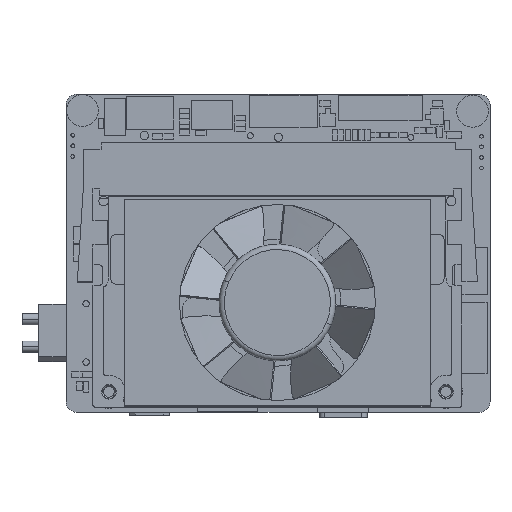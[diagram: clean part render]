
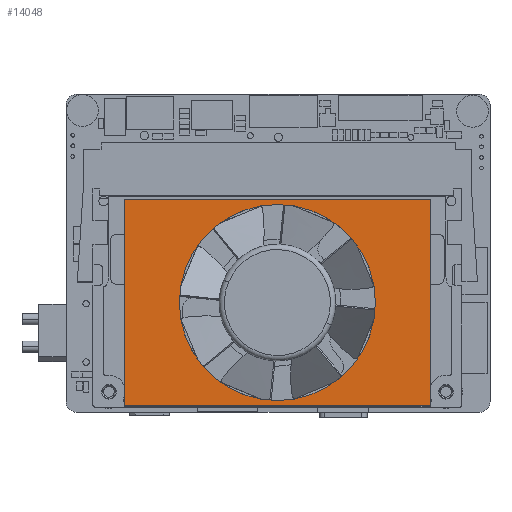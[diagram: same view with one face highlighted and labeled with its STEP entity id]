
A CAD part, top view. The second image highlights one B-rep face of the part: STEP entity #14048.
In plain terms, the highlighted planar face has unit normal (0, 0, 1) as drawn and (0, 0, -1) by its records, which use the part's own axes.
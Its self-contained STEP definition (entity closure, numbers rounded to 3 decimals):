
#58 = CARTESIAN_POINT ( 'NONE',  ( 0., 0., 0. ) ) ;
#1183 = DIRECTION ( 'NONE',  ( 0., 1., 0. ) ) ;
#2988 = VERTEX_POINT ( 'NONE', #7020 ) ;
#3013 = CARTESIAN_POINT ( 'NONE',  ( -28.9, 19.5, 0. ) ) ;
#3814 = EDGE_CURVE ( 'NONE', #34441, #29751, #6232, .T. ) ;
#4059 = CIRCLE ( 'NONE', #27681, 18.5 ) ;
#4518 = PLANE ( 'NONE',  #33519 ) ;
#6232 = LINE ( 'NONE', #3013, #19809 ) ;
#7020 = CARTESIAN_POINT ( 'NONE',  ( -28.9, -19.5, 0. ) ) ;
#7022 = EDGE_LOOP ( 'NONE', ( #45940, #36222, #11529, #42035 ) ) ;
#8548 = EDGE_CURVE ( 'NONE', #39431, #34441, #31453, .T. ) ;
#8972 = DIRECTION ( 'NONE',  ( 0., 0., -1. ) ) ;
#9295 = EDGE_CURVE ( 'NONE', #47101, #12261, #4059, .T. ) ;
#10654 = DIRECTION ( 'NONE',  ( 0., -1., 0. ) ) ;
#11529 = ORIENTED_EDGE ( 'NONE', *, *, #35058, .F. ) ;
#12180 = CARTESIAN_POINT ( 'NONE',  ( 0., 0., 0. ) ) ;
#12261 = VERTEX_POINT ( 'NONE', #32542 ) ;
#12617 = FACE_OUTER_BOUND ( 'NONE', #7022, .T. ) ;
#13900 = DIRECTION ( 'NONE',  ( 0., 0., -1. ) ) ;
#14048 = ADVANCED_FACE ( 'NONE', ( #12617, #38997 ), #4518, .T. ) ;
#16975 = CARTESIAN_POINT ( 'NONE',  ( 28.9, 19.5, 0. ) ) ;
#19809 = VECTOR ( 'NONE', #39501, 1000. ) ;
#20083 = CARTESIAN_POINT ( 'NONE',  ( 28.9, -19.5, 0. ) ) ;
#22182 = EDGE_CURVE ( 'NONE', #12261, #47101, #39421, .T. ) ;
#22297 = DIRECTION ( 'NONE',  ( -1., 0., 0. ) ) ;
#22911 = AXIS2_PLACEMENT_3D ( 'NONE', #48083, #13900, #25507 ) ;
#24762 = VECTOR ( 'NONE', #10654, 1000. ) ;
#25507 = DIRECTION ( 'NONE',  ( -1., 0., 0. ) ) ;
#27038 = VECTOR ( 'NONE', #42646, 1000. ) ;
#27681 = AXIS2_PLACEMENT_3D ( 'NONE', #58, #30149, #22297 ) ;
#28887 = CARTESIAN_POINT ( 'NONE',  ( -28.9, -19.5, 0. ) ) ;
#29096 = LINE ( 'NONE', #28887, #24762 ) ;
#29751 = VERTEX_POINT ( 'NONE', #36987 ) ;
#30149 = DIRECTION ( 'NONE',  ( 0., 0., -1. ) ) ;
#31453 = LINE ( 'NONE', #46446, #36373 ) ;
#32542 = CARTESIAN_POINT ( 'NONE',  ( 18.5, 0., 0. ) ) ;
#32915 = EDGE_CURVE ( 'NONE', #2988, #39431, #39211, .T. ) ;
#33519 = AXIS2_PLACEMENT_3D ( 'NONE', #12180, #8972, #46350 ) ;
#34441 = VERTEX_POINT ( 'NONE', #16975 ) ;
#35058 = EDGE_CURVE ( 'NONE', #29751, #2988, #29096, .T. ) ;
#35776 = ORIENTED_EDGE ( 'NONE', *, *, #9295, .F. ) ;
#36222 = ORIENTED_EDGE ( 'NONE', *, *, #32915, .F. ) ;
#36373 = VECTOR ( 'NONE', #1183, 1000. ) ;
#36844 = CARTESIAN_POINT ( 'NONE',  ( -18.5, 0., 0. ) ) ;
#36987 = CARTESIAN_POINT ( 'NONE',  ( -28.9, 19.5, 0. ) ) ;
#38997 = FACE_BOUND ( 'NONE', #39241, .T. ) ;
#39211 = LINE ( 'NONE', #46332, #27038 ) ;
#39241 = EDGE_LOOP ( 'NONE', ( #35776, #42459 ) ) ;
#39421 = CIRCLE ( 'NONE', #22911, 18.5 ) ;
#39431 = VERTEX_POINT ( 'NONE', #20083 ) ;
#39501 = DIRECTION ( 'NONE',  ( -1., 0., 0. ) ) ;
#42035 = ORIENTED_EDGE ( 'NONE', *, *, #3814, .F. ) ;
#42459 = ORIENTED_EDGE ( 'NONE', *, *, #22182, .F. ) ;
#42646 = DIRECTION ( 'NONE',  ( 1., 0., 0. ) ) ;
#45940 = ORIENTED_EDGE ( 'NONE', *, *, #8548, .F. ) ;
#46332 = CARTESIAN_POINT ( 'NONE',  ( -28.9, -19.5, 0. ) ) ;
#46350 = DIRECTION ( 'NONE',  ( 0., -1., 0. ) ) ;
#46446 = CARTESIAN_POINT ( 'NONE',  ( 28.9, -19.5, 0. ) ) ;
#47101 = VERTEX_POINT ( 'NONE', #36844 ) ;
#48083 = CARTESIAN_POINT ( 'NONE',  ( 0., 0., 0. ) ) ;
